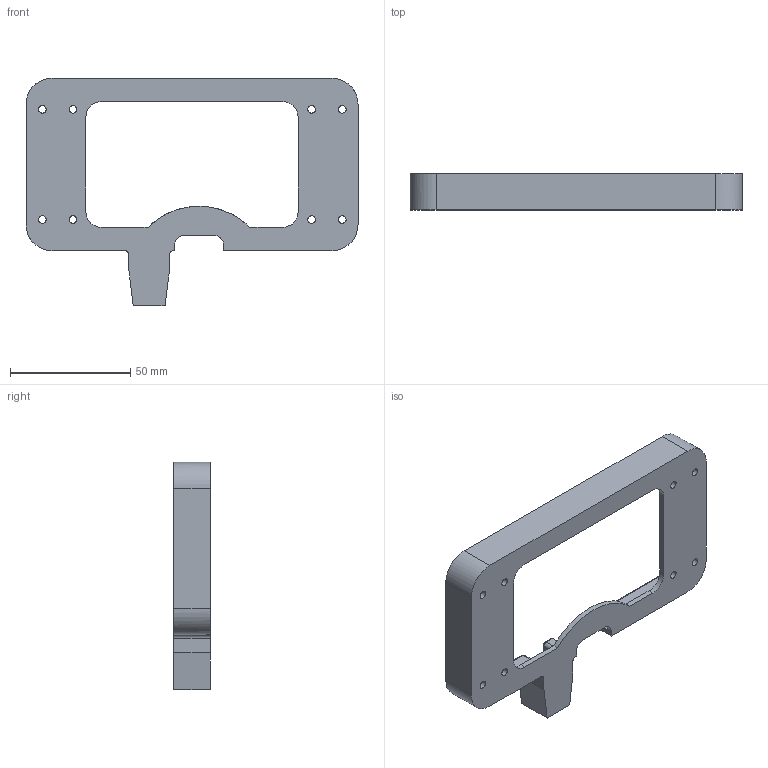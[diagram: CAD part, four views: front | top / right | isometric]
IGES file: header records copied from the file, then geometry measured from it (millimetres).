
Global section: file name: Phone Cas; native system: Autodesk Inventor 2015; preprocessor: unknown; author: Team Titanium; date: 20151202.144137; units: inch
Bounding box: 137.79 x 14.99 x 94.36 mm (x, y, z)
Volume: 23682.5 mm3; surface area: 23403.7 mm2
Topology: 1 solids, 1 shells, 81 faces, 221 edges, 142 vertices
Faces by surface type: bspline 81
